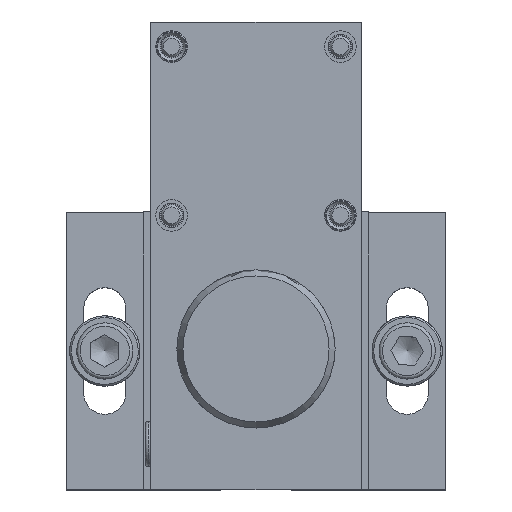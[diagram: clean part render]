
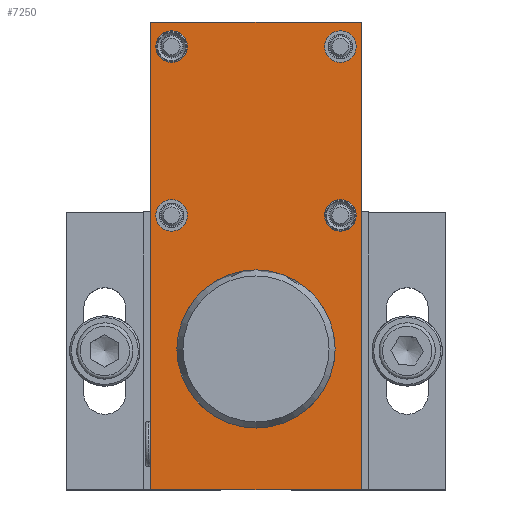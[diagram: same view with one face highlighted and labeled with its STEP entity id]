
A CAD part, top view. The second image highlights one B-rep face of the part: STEP entity #7250.
In plain terms, the highlighted planar face has unit normal (0, 0, 1).
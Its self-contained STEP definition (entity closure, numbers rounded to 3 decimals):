
#5806=CARTESIAN_POINT('',(40.127,-30.27,0.0));
#5807=VERTEX_POINT('',#5806);
#5808=CARTESIAN_POINT('',(35.627,-30.27,0.0));
#5809=DIRECTION('',(0.0,0.0,-1.0));
#5810=DIRECTION('',(1.0,0.0,0.0));
#5811=AXIS2_PLACEMENT_3D('',#5808,#5809,#5810);
#5812=CIRCLE('',#5811,4.5);
#5813=EDGE_CURVE('',#5807,#5807,#5812,.T.);
#6017=CARTESIAN_POINT('',(-7.873,-78.27,0.0));
#6018=VERTEX_POINT('',#6017);
#6019=CARTESIAN_POINT('',(-12.373,-78.27,0.0));
#6020=DIRECTION('',(0.0,0.0,-1.0));
#6021=DIRECTION('',(1.0,0.0,0.0));
#6022=AXIS2_PLACEMENT_3D('',#6019,#6020,#6021);
#6023=CIRCLE('',#6022,4.5);
#6024=EDGE_CURVE('',#6018,#6018,#6023,.T.);
#6742=CARTESIAN_POINT('',(96.127,-54.27,0.0));
#6743=VERTEX_POINT('',#6742);
#6744=CARTESIAN_POINT('',(73.627,-54.27,0.0));
#6745=DIRECTION('',(0.0,0.0,-1.0));
#6746=DIRECTION('',(1.0,0.0,0.0));
#6747=AXIS2_PLACEMENT_3D('',#6744,#6745,#6746);
#6748=CIRCLE('',#6747,22.5);
#6749=EDGE_CURVE('',#6743,#6743,#6748,.T.);
#6794=CARTESIAN_POINT('',(-19.373,-24.27,0.0));
#6795=VERTEX_POINT('',#6794);
#6802=CARTESIAN_POINT('',(113.627,-24.27,0.0));
#6803=VERTEX_POINT('',#6802);
#6804=CARTESIAN_POINT('',(-19.373,-24.27,0.0));
#6805=DIRECTION('',(1.0,0.0,0.0));
#6806=VECTOR('',#6805,133.);
#6807=LINE('',#6804,#6806);
#6808=EDGE_CURVE('',#6795,#6803,#6807,.T.);
#6836=CARTESIAN_POINT('',(-19.373,-84.27,0.0));
#6837=VERTEX_POINT('',#6836);
#6844=CARTESIAN_POINT('',(-19.373,-84.27,0.0));
#6845=DIRECTION('',(0.0,1.0,0.0));
#6846=VECTOR('',#6845,60.0);
#6847=LINE('',#6844,#6846);
#6848=EDGE_CURVE('',#6837,#6795,#6847,.T.);
#6908=CARTESIAN_POINT('',(40.127,-78.27,0.0));
#6909=VERTEX_POINT('',#6908);
#6910=CARTESIAN_POINT('',(35.627,-78.27,0.0));
#6911=DIRECTION('',(0.0,0.0,-1.0));
#6912=DIRECTION('',(1.0,0.0,0.0));
#6913=AXIS2_PLACEMENT_3D('',#6910,#6911,#6912);
#6914=CIRCLE('',#6913,4.5);
#6915=EDGE_CURVE('',#6909,#6909,#6914,.T.);
#7010=CARTESIAN_POINT('',(-7.873,-30.27,0.0));
#7011=VERTEX_POINT('',#7010);
#7012=CARTESIAN_POINT('',(-12.373,-30.27,0.0));
#7013=DIRECTION('',(0.0,0.0,-1.0));
#7014=DIRECTION('',(1.0,0.0,0.0));
#7015=AXIS2_PLACEMENT_3D('',#7012,#7013,#7014);
#7016=CIRCLE('',#7015,4.5);
#7017=EDGE_CURVE('',#7011,#7011,#7016,.T.);
#7178=CARTESIAN_POINT('',(113.627,-84.27,0.0));
#7179=VERTEX_POINT('',#7178);
#7186=CARTESIAN_POINT('',(113.627,-84.27,0.0));
#7187=DIRECTION('',(-1.0,0.0,0.0));
#7188=VECTOR('',#7187,133.);
#7189=LINE('',#7186,#7188);
#7190=EDGE_CURVE('',#7179,#6837,#7189,.T.);
#7214=CARTESIAN_POINT('',(113.627,-24.27,0.0));
#7215=DIRECTION('',(0.0,-1.0,0.0));
#7216=VECTOR('',#7215,60.);
#7217=LINE('',#7214,#7216);
#7218=EDGE_CURVE('',#6803,#7179,#7217,.T.);
#7224=CARTESIAN_POINT('',(47.127,-54.27,0.0));
#7225=DIRECTION('',(0.0,0.0,1.0));
#7226=DIRECTION('',(1.0,0.0,0.0));
#7227=AXIS2_PLACEMENT_3D('',#7224,#7225,#7226);
#7228=PLANE('',#7227);
#7229=ORIENTED_EDGE('',*,*,#6808,.F.);
#7230=ORIENTED_EDGE('',*,*,#6848,.F.);
#7231=ORIENTED_EDGE('',*,*,#7190,.F.);
#7232=ORIENTED_EDGE('',*,*,#7218,.F.);
#7233=EDGE_LOOP('',(#7229,#7230,#7231,#7232));
#7234=FACE_OUTER_BOUND('',#7233,.T.);
#7235=ORIENTED_EDGE('',*,*,#6749,.T.);
#7236=EDGE_LOOP('',(#7235));
#7237=FACE_BOUND('',#7236,.T.);
#7238=ORIENTED_EDGE('',*,*,#6915,.T.);
#7239=EDGE_LOOP('',(#7238));
#7240=FACE_BOUND('',#7239,.T.);
#7241=ORIENTED_EDGE('',*,*,#7017,.T.);
#7242=EDGE_LOOP('',(#7241));
#7243=FACE_BOUND('',#7242,.T.);
#7244=ORIENTED_EDGE('',*,*,#5813,.T.);
#7245=EDGE_LOOP('',(#7244));
#7246=FACE_BOUND('',#7245,.T.);
#7247=ORIENTED_EDGE('',*,*,#6024,.T.);
#7248=EDGE_LOOP('',(#7247));
#7249=FACE_BOUND('',#7248,.T.);
#7250=ADVANCED_FACE('',(#7234,#7237,#7240,#7243,#7246,#7249),#7228,.T.);
